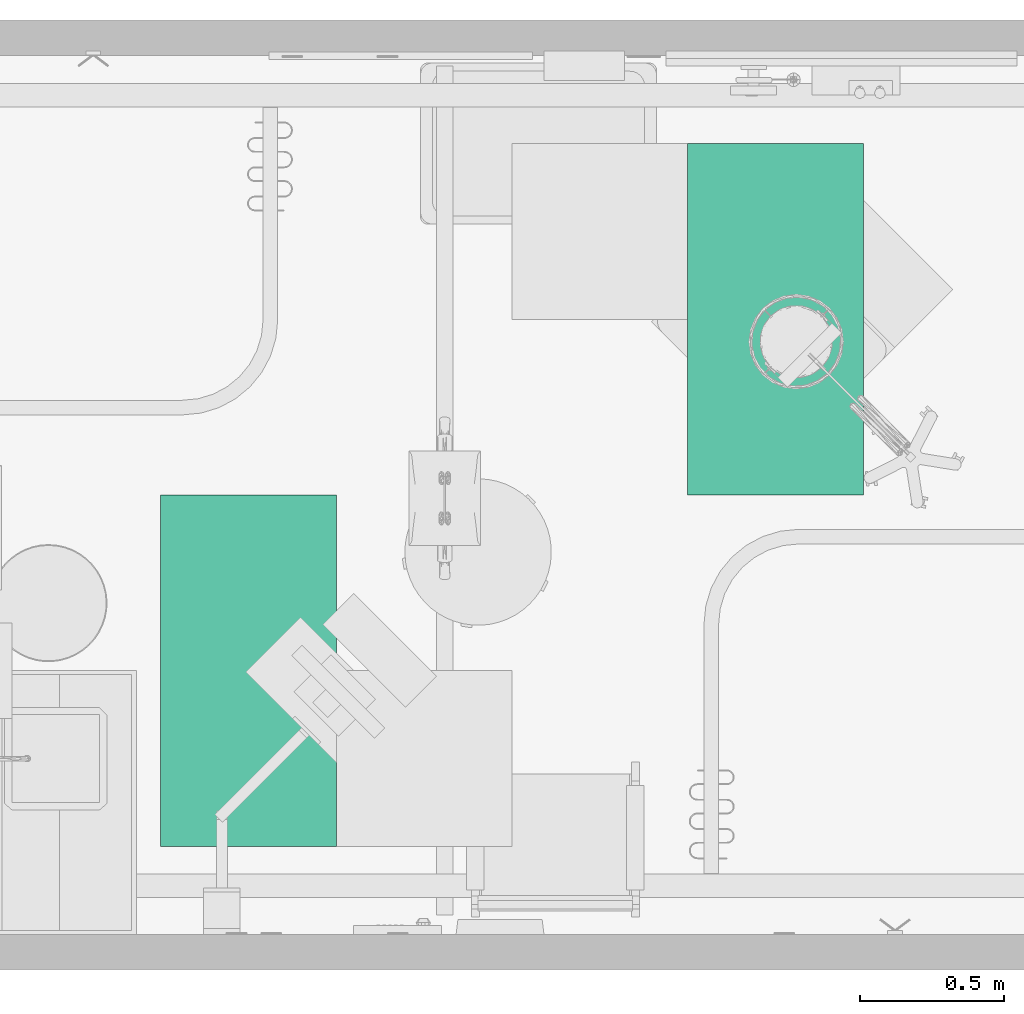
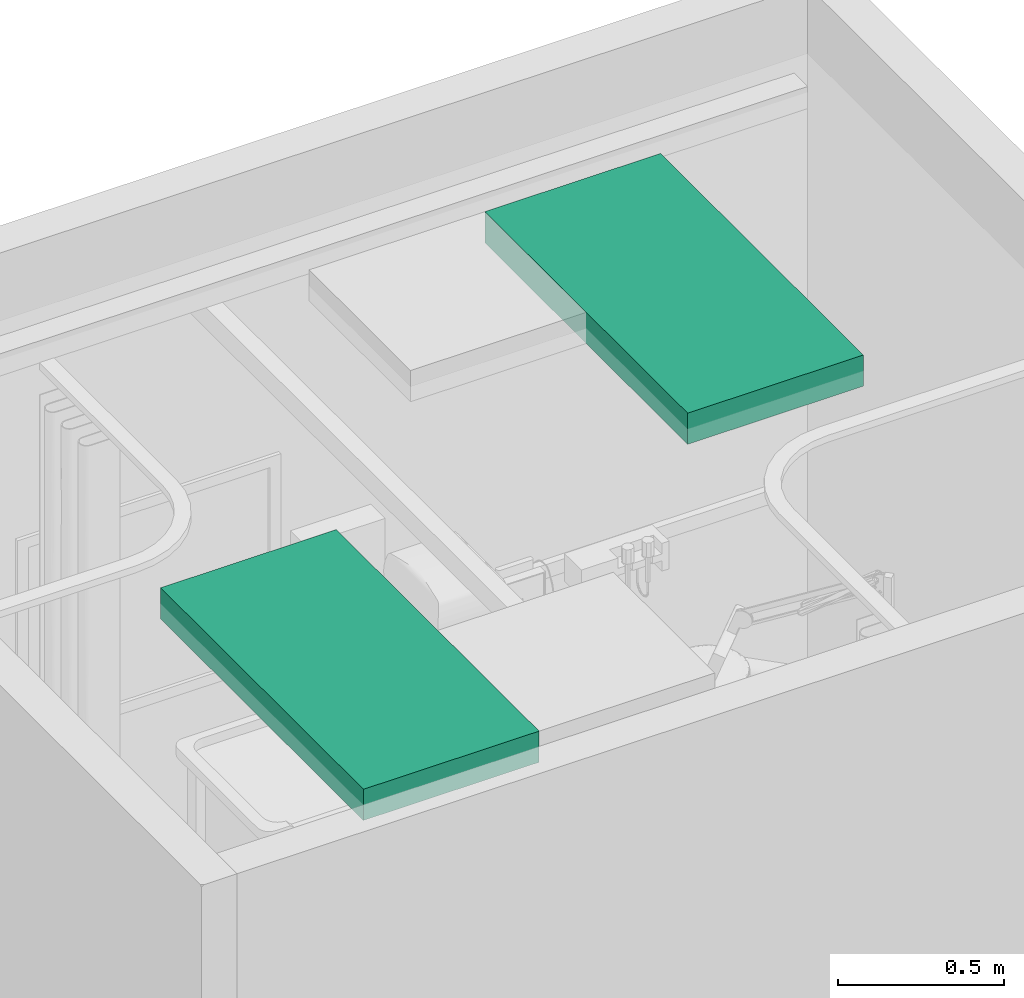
# One storey, part 5 of 8: 2 flow terminals.
"""IFC2X3 building model written with IfcOpenShell, lengths in feet."""

from ifc_helpers import new_model, entity, si_unit, converted_unit, derived_unit, direction, frame, frame_2d, origin, place, context, subcontext, project, spatial, rectangle, extrude, source, transform, mapped, type_object, type_shapes, element, save


model = new_model("IFC2X3")

# Units and contexts
model_context = context("Model", 3, precision=0.0001, world=origin(), true_north=direction((6.12303176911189e-17, 1.0)))
body_context = subcontext(model_context, "Body", "Model", "MODEL_VIEW")
ifc_project = project(units=[converted_unit("LENGTHUNIT", "FOOT", entity("IfcRatioMeasure", 0.3048), si_unit("LENGTHUNIT", "METRE"), dimensions=[1, 0, 0, 0, 0, 0, 0]), converted_unit("AREAUNIT", "SQUARE FOOT", entity("IfcRatioMeasure", 0.09290304), si_unit("AREAUNIT", "SQUARE_METRE"), dimensions=[2, 0, 0, 0, 0, 0, 0]), converted_unit("VOLUMEUNIT", "CUBIC FOOT", entity("IfcRatioMeasure", 0.028316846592), si_unit("VOLUMEUNIT", "CUBIC_METRE"), dimensions=[3, 0, 0, 0, 0, 0, 0]), converted_unit("PLANEANGLEUNIT", "DEGREE", entity("IfcRatioMeasure", 0.0174532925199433), si_unit("PLANEANGLEUNIT", "RADIAN"), dimensions=[0, 0, 0, 0, 0, 0, 0]), si_unit("MASSUNIT", "GRAM", prefix="KILO"), derived_unit("MASSDENSITYUNIT", [(si_unit("MASSUNIT", "GRAM", prefix="KILO"), 1), (si_unit("LENGTHUNIT", "METRE"), -3)]), si_unit("TIMEUNIT", "SECOND"), si_unit("FREQUENCYUNIT", "HERTZ"), si_unit("THERMODYNAMICTEMPERATUREUNIT", "DEGREE_CELSIUS"), derived_unit("THERMALTRANSMITTANCEUNIT", [(si_unit("MASSUNIT", "GRAM", prefix="KILO"), 1), (si_unit("THERMODYNAMICTEMPERATUREUNIT", "KELVIN"), -1), (si_unit("TIMEUNIT", "SECOND"), -3)]), derived_unit("VOLUMETRICFLOWRATEUNIT", [(si_unit("LENGTHUNIT", "METRE"), 3), (si_unit("TIMEUNIT", "SECOND"), -1)]), si_unit("ELECTRICCURRENTUNIT", "AMPERE"), si_unit("ELECTRICVOLTAGEUNIT", "VOLT"), si_unit("POWERUNIT", "WATT"), si_unit("FORCEUNIT", "NEWTON"), si_unit("ILLUMINANCEUNIT", "LUX"), si_unit("LUMINOUSFLUXUNIT", "LUMEN"), si_unit("LUMINOUSINTENSITYUNIT", "CANDELA"), derived_unit("USERDEFINED", [(si_unit("MASSUNIT", "GRAM", prefix="KILO"), -1), (si_unit("LENGTHUNIT", "METRE"), -2), (si_unit("TIMEUNIT", "SECOND"), 3), (si_unit("LUMINOUSFLUXUNIT", "LUMEN"), 1)]), derived_unit("LINEARVELOCITYUNIT", [(si_unit("LENGTHUNIT", "METRE"), 1), (si_unit("TIMEUNIT", "SECOND"), -1)]), si_unit("PRESSUREUNIT", "PASCAL"), derived_unit("USERDEFINED", [(si_unit("LENGTHUNIT", "METRE"), -2), (si_unit("MASSUNIT", "GRAM", prefix="KILO"), 1), (si_unit("TIMEUNIT", "SECOND"), -2)])], contexts=[model_context])

# Site, building, storey, space
site_placement = place(None, origin())
site = spatial("IfcSite", under=ifc_project, at=site_placement, Name="Default", CompositionType="ELEMENT")
building_placement = place(site_placement, origin())
building = spatial("IfcBuilding", under=site, at=building_placement, Name="OUTPATIENT / PACT CLINIC (Ch. 265)", CompositionType="ELEMENT")
storey_placement = place(building_placement, origin())
storey = spatial("IfcBuildingStorey", under=building, at=storey_placement, Name="DATUM", CompositionType="ELEMENT", Elevation=0.0)
space_placement = place(storey_placement, origin())
space = spatial("IfcSpace", under=storey, at=space_placement, Name="EXPA1", CompositionType="ELEMENT", InteriorOrExteriorSpace="INTERNAL")

# Flow terminals
light_fixture_type = type_object("IfcLightFixtureType", Name="2'x4'", PredefinedType="NOTDEFINED")
shared_shape = source(origin(), body_context, "Body", "SweptSolid", [
    extrude(rectangle(XDim=4.00000000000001, YDim=2.0, at=frame_2d((0.0, 1.11022302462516e-16), x_axis=(1.0, 0.0))), frame((-0.0613631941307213, -0.195098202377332, 8.0), z_axis=(0.0, 0.0, 1.0), x_axis=(-1.0, 0.0, 0.0)), (0.0, 0.0, 1.0), 0.375),
])
type_shapes(light_fixture_type, [shared_shape])
for number, where, z_axis, x_axis in (
    (1, (-204.531028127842, -857.815442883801, 1.0), (0.0, 0.0, 1.0), (0.0, 1.0, 0.0)),
    (2, (-198.140831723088, -853.938169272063, 1.0), (0.0, 0.0, 1.0), (0.0, -1.0, 0.0)),
):
    element("IfcFlowTerminal", number, at=place(space_placement, frame(where, z_axis=z_axis, x_axis=x_axis)), inside=space, type_object=light_fixture_type, Name="Troffer Light:2'x4'", ObjectType="2'x4'", context=body_context, shape_type="MappedRepresentation", body=[
        mapped(shared_shape, transform((0.0, 0.0, 0.0), scale=1.0)),
    ])

save(model, "model.ifc")
